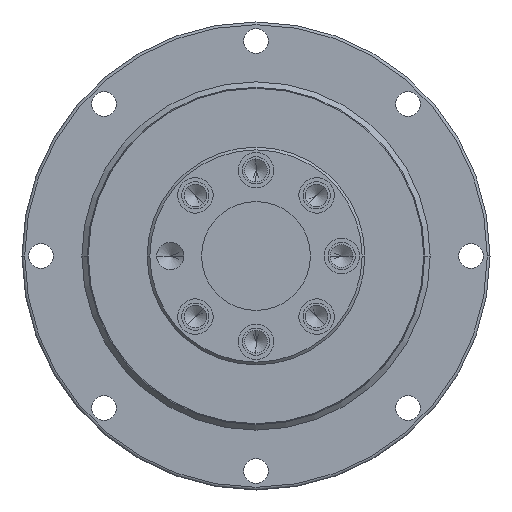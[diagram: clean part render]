
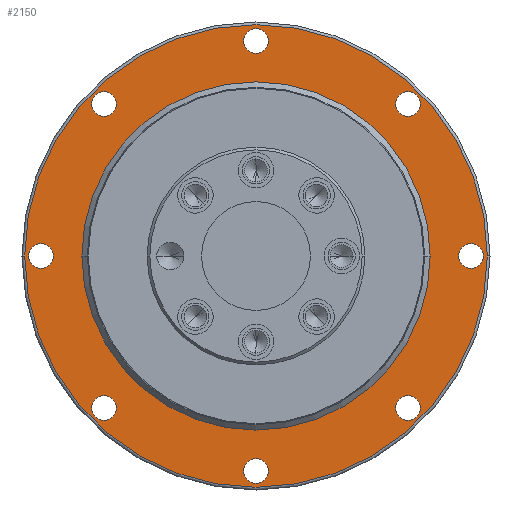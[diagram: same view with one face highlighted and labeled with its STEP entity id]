
A CAD part, left-side view. The second image highlights one B-rep face of the part: STEP entity #2150.
In plain terms, the highlighted planar face has unit normal (-1, 0, 0) as drawn and (1, 0, 0) by its records, which use the part's own axes.
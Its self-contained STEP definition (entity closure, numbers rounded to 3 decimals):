
#83=CARTESIAN_POINT('',(0.,27.931,-27.931));
#84=DIRECTION('',(-1.,0.,0.));
#85=DIRECTION('',(0.,-1.,0.));
#86=AXIS2_PLACEMENT_3D('',#83,#84,#85);
#88=CARTESIAN_POINT('',(0.,27.931,-27.931));
#89=DIRECTION('',(-1.,0.,0.));
#90=DIRECTION('',(0.,1.,0.));
#91=AXIS2_PLACEMENT_3D('',#88,#89,#90);
#93=CARTESIAN_POINT('',(0.,0.,-39.5));
#94=DIRECTION('',(-1.,0.,0.));
#95=DIRECTION('',(0.,-1.,0.));
#96=AXIS2_PLACEMENT_3D('',#93,#94,#95);
#98=CARTESIAN_POINT('',(0.,0.,-39.5));
#99=DIRECTION('',(-1.,0.,0.));
#100=DIRECTION('',(0.,1.,0.));
#101=AXIS2_PLACEMENT_3D('',#98,#99,#100);
#103=CARTESIAN_POINT('',(0.,-27.931,-27.931));
#104=DIRECTION('',(-1.,0.,0.));
#105=DIRECTION('',(0.,-1.,0.));
#106=AXIS2_PLACEMENT_3D('',#103,#104,#105);
#108=CARTESIAN_POINT('',(0.,-27.931,-27.931));
#109=DIRECTION('',(-1.,0.,0.));
#110=DIRECTION('',(0.,1.,0.));
#111=AXIS2_PLACEMENT_3D('',#108,#109,#110);
#113=CARTESIAN_POINT('',(0.,-39.5,0.));
#114=DIRECTION('',(-1.,0.,0.));
#115=DIRECTION('',(0.,-1.,0.));
#116=AXIS2_PLACEMENT_3D('',#113,#114,#115);
#118=CARTESIAN_POINT('',(0.,-39.5,0.));
#119=DIRECTION('',(-1.,0.,0.));
#120=DIRECTION('',(0.,1.,0.));
#121=AXIS2_PLACEMENT_3D('',#118,#119,#120);
#123=CARTESIAN_POINT('',(0.,-27.931,27.931));
#124=DIRECTION('',(-1.,0.,0.));
#125=DIRECTION('',(0.,-1.,0.));
#126=AXIS2_PLACEMENT_3D('',#123,#124,#125);
#128=CARTESIAN_POINT('',(0.,-27.931,27.931));
#129=DIRECTION('',(-1.,0.,0.));
#130=DIRECTION('',(0.,1.,0.));
#131=AXIS2_PLACEMENT_3D('',#128,#129,#130);
#133=CARTESIAN_POINT('',(0.,0.,39.5));
#134=DIRECTION('',(-1.,0.,0.));
#135=DIRECTION('',(0.,-1.,0.));
#136=AXIS2_PLACEMENT_3D('',#133,#134,#135);
#138=CARTESIAN_POINT('',(0.,0.,39.5));
#139=DIRECTION('',(-1.,0.,0.));
#140=DIRECTION('',(0.,1.,0.));
#141=AXIS2_PLACEMENT_3D('',#138,#139,#140);
#143=CARTESIAN_POINT('',(0.,27.931,27.931));
#144=DIRECTION('',(-1.,0.,0.));
#145=DIRECTION('',(0.,-1.,0.));
#146=AXIS2_PLACEMENT_3D('',#143,#144,#145);
#148=CARTESIAN_POINT('',(0.,27.931,27.931));
#149=DIRECTION('',(-1.,0.,0.));
#150=DIRECTION('',(0.,1.,0.));
#151=AXIS2_PLACEMENT_3D('',#148,#149,#150);
#153=CARTESIAN_POINT('',(0.,0.,0.));
#154=DIRECTION('',(1.,0.,0.));
#155=DIRECTION('',(0.,1.,0.));
#156=AXIS2_PLACEMENT_3D('',#153,#154,#155);
#158=CARTESIAN_POINT('',(0.,0.,0.));
#159=DIRECTION('',(-1.,0.,0.));
#160=DIRECTION('',(0.,1.,0.));
#161=AXIS2_PLACEMENT_3D('',#158,#159,#160);
#163=CARTESIAN_POINT('',(0.,39.5,0.));
#164=DIRECTION('',(-1.,0.,0.));
#165=DIRECTION('',(0.,-1.,0.));
#166=AXIS2_PLACEMENT_3D('',#163,#164,#165);
#168=CARTESIAN_POINT('',(0.,39.5,0.));
#169=DIRECTION('',(-1.,0.,0.));
#170=DIRECTION('',(0.,1.,0.));
#171=AXIS2_PLACEMENT_3D('',#168,#169,#170);
#972=CARTESIAN_POINT('',(0.,0.,0.));
#973=DIRECTION('',(-1.,0.,0.));
#974=DIRECTION('',(0.,-1.,0.));
#975=AXIS2_PLACEMENT_3D('',#972,#973,#974);
#987=CARTESIAN_POINT('',(0.,0.,0.));
#988=DIRECTION('',(-1.,0.,0.));
#989=DIRECTION('',(0.,1.,0.));
#990=AXIS2_PLACEMENT_3D('',#987,#988,#989);
#1545=CARTESIAN_POINT('',(0.,32.,0.));
#1546=CARTESIAN_POINT('',(0.,-32.,0.));
#1547=VERTEX_POINT('',#1545);
#1548=VERTEX_POINT('',#1546);
#1553=CARTESIAN_POINT('',(0.,37.25,0.));
#1554=CARTESIAN_POINT('',(0.,41.75,0.));
#1555=VERTEX_POINT('',#1553);
#1556=VERTEX_POINT('',#1554);
#1561=CARTESIAN_POINT('',(0.,25.681,27.931));
#1562=CARTESIAN_POINT('',(0.,30.181,27.931));
#1563=VERTEX_POINT('',#1561);
#1564=VERTEX_POINT('',#1562);
#1569=CARTESIAN_POINT('',(0.,-2.25,39.5));
#1570=CARTESIAN_POINT('',(0.,2.25,39.5));
#1571=VERTEX_POINT('',#1569);
#1572=VERTEX_POINT('',#1570);
#1577=CARTESIAN_POINT('',(0.,-30.181,27.931));
#1578=CARTESIAN_POINT('',(0.,-25.681,27.931));
#1579=VERTEX_POINT('',#1577);
#1580=VERTEX_POINT('',#1578);
#1585=CARTESIAN_POINT('',(0.,-41.75,0.));
#1586=CARTESIAN_POINT('',(0.,-37.25,0.));
#1587=VERTEX_POINT('',#1585);
#1588=VERTEX_POINT('',#1586);
#1593=CARTESIAN_POINT('',(0.,-30.181,-27.931));
#1594=CARTESIAN_POINT('',(0.,-25.681,-27.931));
#1595=VERTEX_POINT('',#1593);
#1596=VERTEX_POINT('',#1594);
#1601=CARTESIAN_POINT('',(0.,-2.25,-39.5));
#1602=CARTESIAN_POINT('',(0.,2.25,-39.5));
#1603=VERTEX_POINT('',#1601);
#1604=VERTEX_POINT('',#1602);
#1609=CARTESIAN_POINT('',(0.,25.681,-27.931));
#1610=CARTESIAN_POINT('',(0.,30.181,-27.931));
#1611=VERTEX_POINT('',#1609);
#1612=VERTEX_POINT('',#1610);
#1637=CARTESIAN_POINT('',(0.,-42.5,0.));
#1638=CARTESIAN_POINT('',(0.,42.5,0.));
#1639=VERTEX_POINT('',#1637);
#1640=VERTEX_POINT('',#1638);
#2087=CARTESIAN_POINT('',(0.,0.,0.));
#2088=DIRECTION('',(1.,0.,0.));
#2089=DIRECTION('',(0.,-1.,0.));
#2090=AXIS2_PLACEMENT_3D('',#2087,#2088,#2089);
#2091=PLANE('',#2090);
#2093=ORIENTED_EDGE('',*,*,#2092,.T.);
#2095=ORIENTED_EDGE('',*,*,#2094,.T.);
#2096=EDGE_LOOP('',(#2093,#2095));
#2097=FACE_OUTER_BOUND('',#2096,.F.);
#2099=ORIENTED_EDGE('',*,*,#2098,.F.);
#2101=ORIENTED_EDGE('',*,*,#2100,.F.);
#2102=EDGE_LOOP('',(#2099,#2101));
#2103=FACE_BOUND('',#2102,.F.);
#2105=ORIENTED_EDGE('',*,*,#2104,.F.);
#2107=ORIENTED_EDGE('',*,*,#2106,.F.);
#2108=EDGE_LOOP('',(#2105,#2107));
#2109=FACE_BOUND('',#2108,.F.);
#2111=ORIENTED_EDGE('',*,*,#2110,.F.);
#2113=ORIENTED_EDGE('',*,*,#2112,.F.);
#2114=EDGE_LOOP('',(#2111,#2113));
#2115=FACE_BOUND('',#2114,.F.);
#2117=ORIENTED_EDGE('',*,*,#2116,.F.);
#2119=ORIENTED_EDGE('',*,*,#2118,.F.);
#2120=EDGE_LOOP('',(#2117,#2119));
#2121=FACE_BOUND('',#2120,.F.);
#2123=ORIENTED_EDGE('',*,*,#2122,.F.);
#2125=ORIENTED_EDGE('',*,*,#2124,.F.);
#2126=EDGE_LOOP('',(#2123,#2125));
#2127=FACE_BOUND('',#2126,.F.);
#2129=ORIENTED_EDGE('',*,*,#2128,.F.);
#2131=ORIENTED_EDGE('',*,*,#2130,.F.);
#2132=EDGE_LOOP('',(#2129,#2131));
#2133=FACE_BOUND('',#2132,.F.);
#2135=ORIENTED_EDGE('',*,*,#2134,.F.);
#2137=ORIENTED_EDGE('',*,*,#2136,.F.);
#2138=EDGE_LOOP('',(#2135,#2137));
#2139=FACE_BOUND('',#2138,.F.);
#2140=ORIENTED_EDGE('',*,*,#2069,.T.);
#2141=ORIENTED_EDGE('',*,*,#2054,.F.);
#2142=EDGE_LOOP('',(#2140,#2141));
#2143=FACE_BOUND('',#2142,.F.);
#2145=ORIENTED_EDGE('',*,*,#2144,.F.);
#2147=ORIENTED_EDGE('',*,*,#2146,.F.);
#2148=EDGE_LOOP('',(#2145,#2147));
#2149=FACE_BOUND('',#2148,.F.);
#2150=ADVANCED_FACE('',(#2097,#2103,#2109,#2115,#2121,#2127,#2133,#2139,#2143,
#2149),#2091,.T.);
#87=CIRCLE('',#86,2.25);
#92=CIRCLE('',#91,2.25);
#97=CIRCLE('',#96,2.25);
#102=CIRCLE('',#101,2.25);
#107=CIRCLE('',#106,2.25);
#112=CIRCLE('',#111,2.25);
#117=CIRCLE('',#116,2.25);
#122=CIRCLE('',#121,2.25);
#127=CIRCLE('',#126,2.25);
#132=CIRCLE('',#131,2.25);
#137=CIRCLE('',#136,2.25);
#142=CIRCLE('',#141,2.25);
#147=CIRCLE('',#146,2.25);
#152=CIRCLE('',#151,2.25);
#157=CIRCLE('',#156,32.);
#162=CIRCLE('',#161,32.);
#167=CIRCLE('',#166,2.25);
#172=CIRCLE('',#171,2.25);
#976=CIRCLE('',#975,42.5);
#991=CIRCLE('',#990,42.5);
#2054=EDGE_CURVE('',#1547,#1548,#162,.T.);
#2069=EDGE_CURVE('',#1547,#1548,#157,.T.);
#2092=EDGE_CURVE('',#1639,#1640,#976,.T.);
#2094=EDGE_CURVE('',#1640,#1639,#991,.T.);
#2098=EDGE_CURVE('',#1611,#1612,#87,.T.);
#2100=EDGE_CURVE('',#1612,#1611,#92,.T.);
#2104=EDGE_CURVE('',#1603,#1604,#97,.T.);
#2106=EDGE_CURVE('',#1604,#1603,#102,.T.);
#2110=EDGE_CURVE('',#1595,#1596,#107,.T.);
#2112=EDGE_CURVE('',#1596,#1595,#112,.T.);
#2116=EDGE_CURVE('',#1587,#1588,#117,.T.);
#2118=EDGE_CURVE('',#1588,#1587,#122,.T.);
#2122=EDGE_CURVE('',#1579,#1580,#127,.T.);
#2124=EDGE_CURVE('',#1580,#1579,#132,.T.);
#2128=EDGE_CURVE('',#1571,#1572,#137,.T.);
#2130=EDGE_CURVE('',#1572,#1571,#142,.T.);
#2134=EDGE_CURVE('',#1563,#1564,#147,.T.);
#2136=EDGE_CURVE('',#1564,#1563,#152,.T.);
#2144=EDGE_CURVE('',#1555,#1556,#167,.T.);
#2146=EDGE_CURVE('',#1556,#1555,#172,.T.);
